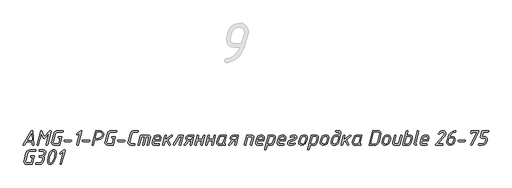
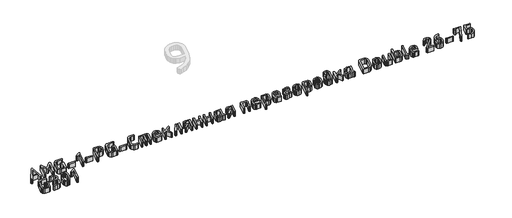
# One storey, part 6 of 22: 1 proxy.
"""IFC4 building model written with IfcOpenShell, lengths in millimetres."""

from ifc_helpers import new_model, si_unit, origin, origin_with_axes, place, context, project, spatial, polyline, outline, extrude, element, save

model = new_model("IFC4")

# Units and contexts
model_context = context("Model", 3, world=origin())
ifc_project = project(units=[si_unit("LENGTHUNIT", "METRE", prefix="MILLI")], contexts=[model_context])

# Site, building, storey
site = spatial("IfcSite", under=ifc_project)
building = spatial("IfcBuilding", under=site)
storey = spatial("IfcBuildingStorey", under=building, Name="Уровень 1", Elevation=0.0)

# Proxy
placement = place(None, origin())
element("IfcBuildingElementProxy", 1, Name="30", ObjectType="30", at=placement, inside=storey, context=model_context, shape_type="SweptSolid", body=[
    extrude(outline(polyline([(-36154.4219264, -51295.2113625), (-36210.5539274, -51295.2113625), (-36231.3287604, -51329.8494015), (-36237.7210168, -51333.5649005), (-36243.0345798, -51331.3276108), (-36245.1919664, -51326.0140477), (-36244.0733215, -51322.0188875), (-36161.4534084, -51186.2633437), (-36154.9812489, -51182.7076511), (-36149.6277342, -51184.4455458), (-36147.4703477, -51189.6592298), (-36137.0429795, -51326.2537573), (-36138.9406806, -51331.7371147), (-36144.6337839, -51333.5649005), (-36149.9573349, -51331.7970421), (-36152.0248303, -51326.493467), (-36154.4219264, -51295.2113625)]), holes=[polyline([(-36155.5405713, -51279.8699473), (-36160.6543764, -51213.3904815), (-36201.3251073, -51279.8699473), (-36155.5405713, -51279.8699473)])]), origin_with_axes(), (0.0, 0.0, 1.0), 50.0),
    extrude(outline(polyline([(-36059.3371135, -51213.3505299), (-36089.9000891, -51327.9716762), (-36092.4370158, -51332.1665945), (-36097.0913775, -51333.5649005), (-36102.3649889, -51331.3276108), (-36104.6821818, -51326.2537573), (-36104.362569, -51323.976516), (-36068.0865143, -51188.3008754), (-36065.5595755, -51184.1059572), (-36060.9351776, -51182.7076511), (-36053.9036956, -51187.2621337), (-36029.8128796, -51244.5527311), (-35973.0816046, -51185.1047472), (-35967.7680415, -51182.7076511), (-35962.1348656, -51184.5654006), (-35960.2571403, -51190.1386491), (-35960.49685, -51192.2960356), (-35996.732953, -51327.9716762), (-35999.3198193, -51332.1665945), (-36003.8842898, -51333.5649005), (-36009.1778771, -51331.3276108), (-36011.5150458, -51326.2537573), (-36011.1554814, -51323.976516), (-35982.5101827, -51216.6665129), (-36027.0961706, -51263.1701777), (-36032.4097337, -51265.4074674), (-36039.2414576, -51260.8929364), (-36059.3371135, -51213.3505299)])), origin_with_axes(), (0.0, 0.0, 1.0), 50.0),
    extrude(outline(polyline([(-35842.6795754, -51198.0490663), (-35891.3406268, -51198.0490663), (-35904.0052846, -51200.8356905), (-35914.512556, -51209.1955633), (-35920.5452479, -51220.5817699), (-35940.7607585, -51295.6907818), (-35941.5597906, -51301.2840061), (-35936.3860581, -51313.5491479), (-35923.5016664, -51318.2234853), (-35884.6287576, -51318.2234853), (-35868.4883104, -51259.4147271), (-35882.2316615, -51259.4147271), (-35887.8648374, -51257.4970502), (-35889.7425627, -51251.7440195), (-35887.8648374, -51245.9909888), (-35882.2316615, -51244.0733119), (-35856.782491, -51244.0733119), (-35852.3478631, -51245.4316663), (-35850.8696539, -51249.5067298), (-35850.9895087, -51251.5442615), (-35871.1251161, -51326.0939509), (-35874.6108934, -51331.6971631), (-35880.9931618, -51333.5649005), (-35927.5767298, -51333.5649005), (-35941.7995002, -51329.4199218), (-35952.8261424, -51316.9849857), (-35957.0210606, -51302.1229897), (-35956.2220285, -51295.8505882), (-35936.1263727, -51220.4219634), (-35926.1784238, -51199.6471304), (-35909.5186057, -51186.9425209), (-35887.2256117, -51182.7076511), (-35842.6795754, -51182.7076511), (-35837.0763632, -51184.625328), (-35835.2086258, -51190.3783587), (-35837.0763632, -51196.1313894), (-35842.6795754, -51198.0490663)])), origin_with_axes(), (0.0, 0.0, 1.0), 50.0),
    extrude(outline(polyline([(-35758.9809691, -51295.2113625), (-35821.0657587, -51295.2113625), (-35826.6689709, -51293.2936856), (-35828.5367083, -51287.5406549), (-35826.6689709, -51281.7876242), (-35821.0657587, -51279.8699473), (-35758.9809691, -51279.8699473), (-35753.3777569, -51281.7876242), (-35751.5100195, -51287.5406549), (-35753.3777569, -51293.2936856), (-35758.9809691, -51295.2113625)])), origin_with_axes(), (0.0, 0.0, 1.0), 50.0),
    extrude(outline(polyline([(-35667.0123811, -51209.7948373), (-35688.4663914, -51226.294849), (-35694.0596157, -51227.7730582), (-35699.1134934, -51224.9964219), (-35700.5317752, -51219.3432702), (-35697.5753567, -51214.3493199), (-35658.5026899, -51185.2645536), (-35654.068062, -51182.7076511), (-35648.4348861, -51184.5654006), (-35646.5571608, -51190.1386491), (-35646.7968704, -51192.2960356), (-35683.0329735, -51327.9716762), (-35685.6198398, -51332.1665945), (-35690.1843103, -51333.5649005), (-35695.4778976, -51331.3276108), (-35697.8150663, -51326.2537573), (-35697.4555019, -51323.976516), (-35667.0123811, -51209.7948373)])), origin_with_axes(), (0.0, 0.0, 1.0), 50.0),
    extrude(outline(polyline([(-35572.3270842, -51295.2113625), (-35634.4118738, -51295.2113625), (-35640.015086, -51293.2936856), (-35641.8828234, -51287.5406549), (-35640.015086, -51281.7876242), (-35634.4118738, -51279.8699473), (-35572.3270842, -51279.8699473), (-35566.723872, -51281.7876242), (-35564.8561346, -51287.5406549), (-35566.723872, -51293.2936856), (-35572.3270842, -51295.2113625)])), origin_with_axes(), (0.0, 0.0, 1.0), 50.0),
    extrude(outline(polyline([(-35481.7168507, -51274.7561423), (-35512.7592455, -51274.7561423), (-35527.3815318, -51328.091531), (-35529.978386, -51332.1965582), (-35534.5728202, -51333.5649005), (-35539.8464317, -51331.3276108), (-35542.1636246, -51326.2537573), (-35541.8440118, -51323.976516), (-35506.1672311, -51190.2585039), (-35502.7114176, -51184.5953643), (-35496.2592338, -51182.7076511), (-35457.386325, -51182.7076511), (-35440.2570756, -51187.731565), (-35427.063059, -51202.8033069), (-35422.0691088, -51221.1810439), (-35422.948044, -51228.7318967), (-35434.9834641, -51253.3620594), (-35455.3487933, -51269.162918), (-35481.7168507, -51274.7561423)]), holes=[polyline([(-35477.6417873, -51259.4147271), (-35461.1917151, -51255.5194459), (-35446.8391021, -51243.8336023), (-35439.8575596, -51232.7769964), (-35437.5303788, -51221.1810439), (-35440.4768094, -51209.3653576), (-35449.3161014, -51201.085388), (-35461.6211948, -51198.0490663), (-35492.623638, -51198.0490663), (-35508.7640853, -51259.4147271), (-35477.6417873, -51259.4147271)])]), origin_with_axes(), (0.0, 0.0, 1.0), 50.0),
    extrude(outline(polyline([(-35295.5024334, -51198.0490663), (-35344.1634847, -51198.0490663), (-35356.8281426, -51200.8356905), (-35367.3354139, -51209.1955633), (-35373.3681058, -51220.5817699), (-35393.5836165, -51295.6907818), (-35394.3826485, -51301.2840061), (-35389.2089161, -51313.5491479), (-35376.3245244, -51318.2234853), (-35337.4516156, -51318.2234853), (-35321.3111683, -51259.4147271), (-35335.0545194, -51259.4147271), (-35340.6876953, -51257.4970502), (-35342.5654206, -51251.7440195), (-35340.6876953, -51245.9909888), (-35335.0545194, -51244.0733119), (-35309.6053489, -51244.0733119), (-35305.1707211, -51245.4316663), (-35303.6925118, -51249.5067298), (-35303.8123666, -51251.5442615), (-35323.9479741, -51326.0939509), (-35327.4337513, -51331.6971631), (-35333.8160198, -51333.5649005), (-35380.3995878, -51333.5649005), (-35394.6223581, -51329.4199218), (-35405.6490003, -51316.9849857), (-35409.8439185, -51302.1229897), (-35409.0448865, -51295.8505882), (-35388.9492306, -51220.4219634), (-35379.0012817, -51199.6471304), (-35362.3414637, -51186.9425209), (-35340.0484697, -51182.7076511), (-35295.5024334, -51182.7076511), (-35289.8992212, -51184.625328), (-35288.0314838, -51190.3783587), (-35289.8992212, -51196.1313894), (-35295.5024334, -51198.0490663)])), origin_with_axes(), (0.0, 0.0, 1.0), 50.0),
    extrude(outline(polyline([(-35211.803827, -51295.2113625), (-35273.8886167, -51295.2113625), (-35279.4918289, -51293.2936856), (-35281.3595662, -51287.5406549), (-35279.4918289, -51281.7876242), (-35273.8886167, -51279.8699473), (-35211.803827, -51279.8699473), (-35206.2006148, -51281.7876242), (-35204.3328774, -51287.5406549), (-35206.2006148, -51293.2936856), (-35211.803827, -51295.2113625)])), origin_with_axes(), (0.0, 0.0, 1.0), 50.0),
    extrude(outline(polyline([(-35047.2831297, -51234.4050242), (-35044.7262271, -51230.1501786), (-35040.0119381, -51228.7318967), (-34968.0591028, -51228.7318967), (-34955.8339125, -51231.7382547), (-34947.3641729, -51240.7573289), (-34944.3278511, -51252.6629063), (-34945.1268832, -51258.6955982), (-34963.7443297, -51328.0116278), (-34966.331196, -51332.1765824), (-34970.8956665, -51333.5649005), (-34976.1892538, -51331.3675624), (-34978.5264225, -51326.3336606), (-34978.1668581, -51324.0564192), (-34960.6680564, -51258.9752595), (-34959.8690243, -51253.4619384), (-34962.915334, -51246.4204685), (-34972.054263, -51244.0733119), (-34987.5954362, -51244.0733119), (-35010.3278978, -51328.0116278), (-35012.914764, -51332.1765824), (-35017.4792345, -51333.5649005), (-35022.7728218, -51331.3675624), (-35025.1099905, -51326.3336606), (-35024.7903777, -51324.0564192), (-35003.0567062, -51244.0733119), (-35034.2189558, -51244.0733119), (-35056.9114658, -51328.0116278), (-35059.5083199, -51332.1765824), (-35064.1027542, -51333.5649005), (-35069.3763656, -51331.3475866), (-35071.6935585, -51326.293709), (-35071.3739457, -51324.0164676), (-35047.2831297, -51234.4050242)])), origin_with_axes(), (0.0, 0.0, 1.0), 50.0),
    extrude(outline(polyline([(-35112.004725, -51318.2234853), (-35106.3715492, -51320.1411622), (-35104.4938239, -51325.8941929), (-35106.3715492, -51331.6472236), (-35112.004725, -51333.5649005), (-35145.0447, -51333.5649005), (-35159.397313, -51329.3899581), (-35170.4139673, -51316.8651309), (-35174.4890307, -51301.9232317), (-35173.6899987, -51295.8505882), (-35153.7141976, -51220.4219634), (-35146.8924616, -51203.9219518), (-35136.4551055, -51192.1362292), (-35122.4021295, -51185.0647956), (-35104.7335335, -51182.7076511), (-35075.8485252, -51182.7076511), (-35070.2153493, -51184.625328), (-35068.337624, -51190.3783587), (-35070.2153493, -51196.1313894), (-35075.8485252, -51198.0490663), (-35108.8085969, -51198.0490663), (-35121.3533999, -51200.8356905), (-35131.9805261, -51209.1955633), (-35138.1330728, -51220.5817699), (-35158.2287286, -51295.6907818), (-35159.0277607, -51301.2840061), (-35153.8540282, -51313.5491479), (-35140.9696366, -51318.2234853), (-35112.004725, -51318.2234853)])), origin_with_axes(), (0.0, 0.0, 1.0), 50.0),
    extrude(outline(polyline([(-34837.5372188, -51265.4873706), (-34843.5699107, -51287.5406549), (-34905.6147487, -51287.5406549), (-34909.6099089, -51302.8820701), (-34910.408941, -51308.4752944), (-34907.3626313, -51315.7864376), (-34898.2237023, -51318.2234853), (-34861.4282768, -51318.2234853), (-34855.7951009, -51320.1411622), (-34853.9173756, -51325.8941929), (-34855.7951009, -51331.6472236), (-34861.4282768, -51333.5649005), (-34902.2188625, -51333.5649005), (-34911.2778883, -51331.80703), (-34918.9585838, -51326.5334186), (-34924.2022316, -51318.8227594), (-34925.9501142, -51309.7537457), (-34925.1510821, -51303.601199), (-34915.1631816, -51266.1665478), (-34908.3064879, -51248.9274315), (-34898.4434361, -51237.4013943), (-34884.6950911, -51230.8992711), (-34866.1825175, -51228.7318967), (-34854.6614742, -51230.804386), (-34845.1080474, -51237.0218541), (-34838.6808334, -51246.2756439), (-34836.5384287, -51257.4570986), (-34837.5372188, -51265.4873706)]), holes=[polyline([(-34853.1183436, -51265.1677578), (-34851.8798439, -51257.3771954), (-34856.4742782, -51247.3992827), (-34870.2575809, -51244.0733119), (-34889.1946403, -51249.3469234), (-34895.4570539, -51255.9389377), (-34899.5820568, -51265.1677578), (-34901.6595401, -51272.1992397), (-34855.0360205, -51272.1992397), (-34853.1183436, -51265.1677578)])]), origin_with_axes(), (0.0, 0.0, 1.0), 50.0),
    extrude(outline(polyline([(-34778.9681701, -51285.2634136), (-34799.063826, -51300.7246836), (-34806.3350176, -51328.0116278), (-34808.8719443, -51332.1765824), (-34813.5263059, -51333.5649005), (-34818.7999174, -51331.3475866), (-34821.1171103, -51326.293709), (-34820.7974975, -51324.0164676), (-34796.7066815, -51234.2851694), (-34794.1797426, -51230.1202149), (-34789.5553447, -51228.7318967), (-34783.9221688, -51230.5796583), (-34782.0444435, -51236.1229431), (-34782.2442015, -51238.2803296), (-34792.5916664, -51276.9534804), (-34731.9051829, -51231.2887992), (-34727.3906519, -51228.7318967), (-34722.1370162, -51231.009138), (-34719.7598959, -51236.1229431), (-34722.8361692, -51242.2355382), (-34766.8228831, -51275.9147387), (-34744.6497439, -51322.777968), (-34743.8507119, -51325.9740961), (-34746.1279532, -51331.2876592), (-34751.4814679, -51333.5649005), (-34758.1533854, -51329.2501275), (-34778.9681701, -51285.2634136)])), origin_with_axes(), (0.0, 0.0, 1.0), 50.0),
    extrude(outline(polyline([(-34617.2041333, -51228.7318967), (-34611.5709574, -51230.5796583), (-34609.6932321, -51236.1229431), (-34609.9329417, -51238.2803296), (-34634.1436126, -51328.0116278), (-34636.7304788, -51332.1765824), (-34641.2949494, -51333.5649005), (-34646.5885367, -51331.3675624), (-34648.9257054, -51326.3336606), (-34648.566141, -51324.0564192), (-34626.9922758, -51244.0733119), (-34644.0116583, -51244.0733119), (-34697.1073375, -51330.0491595), (-34702.980223, -51333.5649005), (-34708.9130359, -51331.7770663), (-34710.9705434, -51326.4135638), (-34709.8119469, -51322.2186455), (-34654.7186877, -51232.3674925), (-34648.2065765, -51228.7318967), (-34617.2041333, -51228.7318967)])), origin_with_axes(), (0.0, 0.0, 1.0), 50.0),
    extrude(outline(polyline([(-34547.3687329, -51287.5406549), (-34588.2791734, -51331.2477076), (-34593.6326881, -51333.5649005), (-34599.2259124, -51331.707151), (-34601.2234925, -51326.1339025), (-34599.066106, -51320.5406783), (-34567.2646307, -51286.5019133), (-34579.4698452, -51278.0321736), (-34584.0842552, -51264.1290161), (-34583.405078, -51258.1362758), (-34577.8617932, -51244.4977976), (-34570.1011945, -51235.4637416), (-34559.2143829, -51230.4148579), (-34544.2924595, -51228.7318967), (-34507.497034, -51228.7318967), (-34502.2034467, -51230.8892832), (-34499.866278, -51236.0030883), (-34500.2258424, -51238.2803296), (-34524.3965617, -51328.0116278), (-34526.9934158, -51332.1765824), (-34531.5878501, -51333.5649005), (-34537.1910623, -51331.6771873), (-34539.0587997, -51326.0140477), (-34538.8590416, -51323.8167096), (-34529.3106088, -51287.5406549), (-34547.3687329, -51287.5406549)]), holes=[polyline([(-34556.3578434, -51272.1992397), (-34525.3154485, -51272.1992397), (-34517.1253701, -51244.0733119), (-34548.2876197, -51244.0733119), (-34560.7824833, -51247.5890529), (-34568.0636628, -51258.1362758), (-34568.74284, -51263.2500809), (-34565.6465908, -51269.96195), (-34556.3578434, -51272.1992397)])]), origin_with_axes(), (0.0, 0.0, 1.0), 50.0),
    extrude(outline(polyline([(-34419.3637998, -51287.5406549), (-34465.9473679, -51287.5406549), (-34476.4945908, -51327.8518214), (-34479.0614812, -51332.1366308), (-34483.805734, -51333.5649005), (-34489.0593697, -51331.3475866), (-34491.3965384, -51326.293709), (-34491.0769256, -51324.0164676), (-34466.9861095, -51234.2851694), (-34464.4491828, -51230.1202149), (-34459.7948211, -51228.7318967), (-34454.4812581, -51230.80938), (-34452.2040167, -51235.8832335), (-34452.4037748, -51237.9607168), (-34461.9522077, -51272.1992397), (-34415.2487848, -51272.1992397), (-34404.7015619, -51234.125363), (-34402.174623, -51230.0802632), (-34397.5502251, -51228.7318967), (-34391.9170492, -51230.5796583), (-34390.0393239, -51236.1229431), (-34390.2790335, -51238.2803296), (-34414.3698496, -51328.0116278), (-34416.8967884, -51332.1765824), (-34421.5211864, -51333.5649005), (-34426.7947978, -51331.307635), (-34429.1119907, -51326.1339025), (-34428.7923779, -51323.8167096), (-34419.3637998, -51287.5406549)])), origin_with_axes(), (0.0, 0.0, 1.0), 50.0),
    extrude(outline(polyline([(-34309.4169909, -51287.5406549), (-34356.0005589, -51287.5406549), (-34366.5477819, -51327.8518214), (-34369.1146723, -51332.1366308), (-34373.8589251, -51333.5649005), (-34379.1125607, -51331.3475866), (-34381.4497295, -51326.293709), (-34381.1301167, -51324.0164676), (-34357.0393006, -51234.2851694), (-34354.5023739, -51230.1202149), (-34349.8480122, -51228.7318967), (-34344.5344491, -51230.80938), (-34342.2572078, -51235.8832335), (-34342.4569658, -51237.9607168), (-34352.0053987, -51272.1992397), (-34305.3019759, -51272.1992397), (-34294.754753, -51234.125363), (-34292.2278141, -51230.0802632), (-34287.6034162, -51228.7318967), (-34281.9702403, -51230.5796583), (-34280.092515, -51236.1229431), (-34280.3322246, -51238.2803296), (-34304.4230407, -51328.0116278), (-34306.9499795, -51332.1765824), (-34311.5743774, -51333.5649005), (-34316.8479889, -51331.307635), (-34319.1651818, -51326.1339025), (-34318.845569, -51323.8167096), (-34309.4169909, -51287.5406549)])), origin_with_axes(), (0.0, 0.0, 1.0), 50.0),
    extrude(outline(polyline([(-34242.538009, -51333.5649005), (-34251.5970348, -51331.8369937), (-34259.2777303, -51326.6532734), (-34264.5213781, -51319.0225174), (-34266.2692607, -51309.9535037), (-34265.4702286, -51303.601199), (-34253.4447964, -51258.6955982), (-34247.8815358, -51244.7924407), (-34239.8213001, -51235.523669), (-34228.9544643, -51230.4298398), (-34214.332178, -51228.7318967), (-34175.4992208, -51228.7318967), (-34170.6051495, -51230.8693074), (-34169.6662869, -51236.2028463), (-34189.9217491, -51310.7525357), (-34190.2413619, -51312.7900674), (-34188.7431768, -51316.8651309), (-34184.2486216, -51318.2234853), (-34179.0449254, -51320.1411622), (-34178.4556393, -51325.8941929), (-34181.7915981, -51331.6472236), (-34188.2038302, -51333.5649005), (-34198.261646, -51331.3875382), (-34203.6651002, -51324.8554513), (-34212.8140171, -51331.3875382), (-34227.076739, -51333.5649005), (-34242.538009, -51333.5649005)]), holes=[polyline([(-34238.5428488, -51318.2234853), (-34223.0016756, -51318.2234853), (-34210.9962192, -51313.6690027), (-34203.3055358, -51303.401441), (-34187.2849434, -51244.0733119), (-34218.3273382, -51244.0733119), (-34231.0718992, -51247.778823), (-34237.9835264, -51258.8953562), (-34249.9290554, -51303.401441), (-34250.7280875, -51308.6750524), (-34247.6817778, -51315.8363771), (-34238.5428488, -51318.2234853)])]), origin_with_axes(), (0.0, 0.0, 1.0), 50.0),
    extrude(outline(polyline([(-34092.240082, -51287.5406549), (-34133.1505226, -51331.2477076), (-34138.5040372, -51333.5649005), (-34144.0972615, -51331.707151), (-34146.0948416, -51326.1339025), (-34143.9374551, -51320.5406783), (-34112.1359799, -51286.5019133), (-34124.3411943, -51278.0321736), (-34128.9556043, -51264.1290161), (-34128.2764271, -51258.1362758), (-34122.7331423, -51244.4977976), (-34114.9725436, -51235.4637416), (-34104.085732, -51230.4148579), (-34089.1638087, -51228.7318967), (-34052.3683832, -51228.7318967), (-34047.0747959, -51230.8892832), (-34044.7376272, -51236.0030883), (-34045.0971916, -51238.2803296), (-34069.2679108, -51328.0116278), (-34071.864765, -51332.1765824), (-34076.4591992, -51333.5649005), (-34082.0624114, -51331.6771873), (-34083.9301488, -51326.0140477), (-34083.7303908, -51323.8167096), (-34074.1819579, -51287.5406549), (-34092.240082, -51287.5406549)]), holes=[polyline([(-34101.2291925, -51272.1992397), (-34070.1867977, -51272.1992397), (-34061.9967193, -51244.0733119), (-34093.1589689, -51244.0733119), (-34105.6538324, -51247.5890529), (-34112.9350119, -51258.1362758), (-34113.6141891, -51263.2500809), (-34110.51794, -51269.96195), (-34101.2291925, -51272.1992397)])]), origin_with_axes(), (0.0, 0.0, 1.0), 50.0),
    extrude(outline(polyline([(-33960.5995532, -51234.4050242), (-33958.0426507, -51230.1501786), (-33953.3283616, -51228.7318967), (-33912.4179211, -51228.7318967), (-33903.0542643, -51230.4198519), (-33895.4185144, -51235.4837174), (-33890.339667, -51243.1244613), (-33888.6467178, -51252.5430515), (-33889.4457499, -51258.6955982), (-33908.1031481, -51328.0116278), (-33910.6700385, -51332.1765824), (-33915.2544848, -51333.5649005), (-33920.5280963, -51331.3675624), (-33922.8452892, -51326.3336606), (-33922.5256764, -51324.0564192), (-33905.0268747, -51258.9752595), (-33904.2278427, -51253.5817932), (-33907.2641644, -51246.4504322), (-33916.3731297, -51244.0733119), (-33947.5353793, -51244.0733119), (-33970.2278893, -51328.0116278), (-33972.8247434, -51332.1765824), (-33977.4191777, -51333.5649005), (-33982.6927891, -51331.3475866), (-33985.0099821, -51326.293709), (-33984.6903692, -51324.0164676), (-33960.5995532, -51234.4050242)])), origin_with_axes(), (0.0, 0.0, 1.0), 50.0),
    extrude(outline(polyline([(-33781.5364727, -51265.4873706), (-33787.5691646, -51287.5406549), (-33849.6140026, -51287.5406549), (-33853.6091628, -51302.8820701), (-33854.4081949, -51308.4752944), (-33851.3618852, -51315.7864376), (-33842.2229562, -51318.2234853), (-33805.4275307, -51318.2234853), (-33799.7943548, -51320.1411622), (-33797.9166295, -51325.8941929), (-33799.7943548, -51331.6472236), (-33805.4275307, -51333.5649005), (-33846.2181164, -51333.5649005), (-33855.2771422, -51331.80703), (-33862.9578377, -51326.5334186), (-33868.2014855, -51318.8227594), (-33869.9493681, -51309.7537457), (-33869.150336, -51303.601199), (-33859.1624355, -51266.1665478), (-33852.3057418, -51248.9274315), (-33842.44269, -51237.4013943), (-33828.694345, -51230.8992711), (-33810.1817714, -51228.7318967), (-33798.6607281, -51230.804386), (-33789.1073013, -51237.0218541), (-33782.6800873, -51246.2756439), (-33780.5376826, -51257.4570986), (-33781.5364727, -51265.4873706)]), holes=[polyline([(-33797.1175975, -51265.1677578), (-33795.8790978, -51257.3771954), (-33800.4735321, -51247.3992827), (-33814.2568348, -51244.0733119), (-33833.1938942, -51249.3469234), (-33839.4563078, -51255.9389377), (-33843.5813107, -51265.1677578), (-33845.658794, -51272.1992397), (-33799.0352744, -51272.1992397), (-33797.1175975, -51265.1677578)])]), origin_with_axes(), (0.0, 0.0, 1.0), 50.0),
    extrude(outline(polyline([(-33740.7059354, -51234.4449758), (-33738.1490328, -51230.1601665), (-33733.4347438, -51228.7318967), (-33692.5243033, -51228.7318967), (-33683.3604045, -51230.4747853), (-33675.684703, -51235.7034512), (-33670.4860008, -51243.3991286), (-33668.7531, -51252.5430515), (-33669.5521321, -51258.6955982), (-33681.6175159, -51303.601199), (-33687.1657946, -51317.4344412), (-33695.1810848, -51326.6532734), (-33706.2127209, -51331.8369937), (-33720.8100375, -51333.5649005), (-33751.8124807, -51333.5649005), (-33762.3996553, -51373.876067), (-33764.9265941, -51378.1608763), (-33769.5509921, -51379.5891461), (-33774.8445793, -51377.3518564), (-33777.1817481, -51372.2780029), (-33776.8221836, -51370.0007616), (-33740.7059354, -51234.4449758)]), holes=[polyline([(-33727.6417615, -51244.0733119), (-33747.8572721, -51318.2234853), (-33716.7349741, -51318.2234853), (-33703.9604493, -51314.5179742), (-33697.0388343, -51303.401441), (-33685.1332569, -51258.8953562), (-33684.3342248, -51253.50189), (-33687.3705466, -51246.4304564), (-33696.4795119, -51244.0733119), (-33727.6417615, -51244.0733119)])]), origin_with_axes(), (0.0, 0.0, 1.0), 50.0),
    extrude(outline(polyline([(-33561.6428548, -51265.4873706), (-33567.6755468, -51287.5406549), (-33629.7203848, -51287.5406549), (-33633.715545, -51302.8820701), (-33634.514577, -51308.4752944), (-33631.4682674, -51315.7864376), (-33622.3293384, -51318.2234853), (-33585.5339129, -51318.2234853), (-33579.900737, -51320.1411622), (-33578.0230117, -51325.8941929), (-33579.900737, -51331.6472236), (-33585.5339129, -51333.5649005), (-33626.3244986, -51333.5649005), (-33635.3835244, -51331.80703), (-33643.0642199, -51326.5334186), (-33648.3078677, -51318.8227594), (-33650.0557502, -51309.7537457), (-33649.2567182, -51303.601199), (-33639.2688177, -51266.1665478), (-33632.412124, -51248.9274315), (-33622.5490722, -51237.4013943), (-33608.8007272, -51230.8992711), (-33590.2881535, -51228.7318967), (-33578.7671103, -51230.804386), (-33569.2136834, -51237.0218541), (-33562.7864695, -51246.2756439), (-33560.6440648, -51257.4570986), (-33561.6428548, -51265.4873706)]), holes=[polyline([(-33577.2239797, -51265.1677578), (-33575.98548, -51257.3771954), (-33580.5799142, -51247.3992827), (-33594.363217, -51244.0733119), (-33613.3002763, -51249.3469234), (-33619.56269, -51255.9389377), (-33623.6876929, -51265.1677578), (-33625.7651762, -51272.1992397), (-33579.1416566, -51272.1992397), (-33577.2239797, -51265.1677578)])]), origin_with_axes(), (0.0, 0.0, 1.0), 50.0),
    extrude(outline(polyline([(-33489.0907455, -51330.6484336), (-33520.2130435, -51333.5649005), (-33528.1434365, -51331.9668364), (-33534.8353299, -51327.1726442), (-33539.3898125, -51320.261017), (-33540.9079734, -51312.3106482), (-33539.2100303, -51303.1517434), (-33534.116201, -51294.3723789), (-33518.5350762, -51282.7065111), (-33473.1900079, -51264.9679998), (-33465.9387921, -51259.7742915), (-33463.5217201, -51251.6241647), (-33465.8289252, -51245.9610251), (-33472.7505402, -51244.0733119), (-33490.6588459, -51245.6913518), (-33504.1924511, -51250.5454714), (-33507.8280469, -51251.5842131), (-33513.1216341, -51249.3069717), (-33515.338948, -51244.0733119), (-33511.5834974, -51237.4413459), (-33493.5453491, -51230.909259), (-33468.75538, -51228.7318967), (-33458.6476247, -51231.4985451), (-33451.0168687, -51239.7984905), (-33448.0604501, -51250.3057618), (-33450.5074858, -51260.823021), (-33457.8485927, -51271.1205465), (-33470.2335893, -51279.3505765), (-33515.5786577, -51296.969233), (-33522.8898008, -51302.2528324), (-33525.3268486, -51310.4329229), (-33523.0595951, -51316.2758447), (-33516.2578349, -51318.2234853), (-33494.663994, -51316.4855906), (-33475.1076848, -51311.2719066), (-33472.3909758, -51310.7125841), (-33466.7577999, -51312.5903094), (-33464.8800746, -51318.2234853), (-33467.3271102, -51323.477121), (-33474.6682171, -51327.4123538), (-33489.0907455, -51330.6484336)])), origin_with_axes(), (0.0, 0.0, 1.0), 50.0),
    extrude(outline(polyline([(-33427.3255687, -51296.1302494), (-33419.3751999, -51266.1665478), (-33412.5185061, -51248.9274315), (-33402.6554544, -51237.4013943), (-33388.9071093, -51230.8992711), (-33370.3945357, -51228.7318967), (-33358.8734925, -51230.8443376), (-33349.3200656, -51237.1816605), (-33342.8928516, -51246.6152326), (-33340.750447, -51258.016421), (-33341.749237, -51266.1665478), (-33349.6996058, -51296.1302494), (-33359.6076031, -51317.6641629), (-33375.2286796, -51329.5897161), (-33398.68027, -51333.5649005), (-33410.2063072, -51331.4524596), (-33419.7747159, -51325.1151367), (-33426.2169117, -51315.6815646), (-33428.3643103, -51304.2803762), (-33427.3255687, -51296.1302494)]), holes=[polyline([(-33365.2807306, -51295.970443), (-33357.3303618, -51266.3263542), (-33356.0918622, -51258.016421), (-33360.6862964, -51247.5590892), (-33374.4695991, -51244.0733119), (-33385.0517797, -51245.464127), (-33393.4665859, -51249.6365725), (-33399.7140177, -51256.5906482), (-33403.794075, -51266.3263542), (-33411.8642987, -51295.970443), (-33413.1427499, -51304.2803762), (-33408.5383278, -51314.737708), (-33394.7250614, -51318.2234853), (-33384.1054261, -51316.8326702), (-33375.6581593, -51312.6602247), (-33369.3832608, -51305.706149), (-33365.2807306, -51295.970443)])]), origin_with_axes(), (0.0, 0.0, 1.0), 50.0),
    extrude(outline(polyline([(-33300.9186997, -51234.4449758), (-33298.3617972, -51230.1601665), (-33293.6475081, -51228.7318967), (-33252.7370676, -51228.7318967), (-33243.5731689, -51230.4747853), (-33235.8974673, -51235.7034512), (-33230.6987651, -51243.3991286), (-33228.9658644, -51252.5430515), (-33229.7648964, -51258.6955982), (-33241.8302802, -51303.601199), (-33247.378559, -51317.4344412), (-33255.3938491, -51326.6532734), (-33266.4254853, -51331.8369937), (-33281.0228019, -51333.5649005), (-33312.0252451, -51333.5649005), (-33322.6124196, -51373.876067), (-33325.1393585, -51378.1608763), (-33329.7637564, -51379.5891461), (-33335.0573437, -51377.3518564), (-33337.3945124, -51372.2780029), (-33337.034948, -51370.0007616), (-33300.9186997, -51234.4449758)]), holes=[polyline([(-33287.8545258, -51244.0733119), (-33308.0700365, -51318.2234853), (-33276.9477384, -51318.2234853), (-33264.1732137, -51314.5179742), (-33257.2515986, -51303.401441), (-33245.3460212, -51258.8953562), (-33244.5469892, -51253.50189), (-33247.5833109, -51246.4304564), (-33256.6922762, -51244.0733119), (-33287.8545258, -51244.0733119)])]), origin_with_axes(), (0.0, 0.0, 1.0), 50.0),
    extrude(outline(polyline([(-33207.4319508, -51296.1302494), (-33199.481582, -51266.1665478), (-33192.6248883, -51248.9274315), (-33182.7618366, -51237.4013943), (-33169.0134915, -51230.8992711), (-33150.5009179, -51228.7318967), (-33138.9798746, -51230.8443376), (-33129.4264478, -51237.1816605), (-33122.9992338, -51246.6152326), (-33120.8568291, -51258.016421), (-33121.8556192, -51266.1665478), (-33129.805988, -51296.1302494), (-33139.7139853, -51317.6641629), (-33155.3350617, -51329.5897161), (-33178.7866521, -51333.5649005), (-33190.3126893, -51331.4524596), (-33199.881098, -51325.1151367), (-33206.3232939, -51315.6815646), (-33208.4706925, -51304.2803762), (-33207.4319508, -51296.1302494)]), holes=[polyline([(-33145.3871128, -51295.970443), (-33137.436744, -51266.3263542), (-33136.1982443, -51258.016421), (-33140.7926786, -51247.5590892), (-33154.5759813, -51244.0733119), (-33165.1581619, -51245.464127), (-33173.5729681, -51249.6365725), (-33179.8203999, -51256.5906482), (-33183.9004572, -51266.3263542), (-33191.9706808, -51295.970443), (-33193.2491321, -51304.2803762), (-33188.64471, -51314.737708), (-33174.8314435, -51318.2234853), (-33164.2118083, -51316.8326702), (-33155.7645414, -51312.6602247), (-33149.4896429, -51305.706149), (-33145.3871128, -51295.970443)])]), origin_with_axes(), (0.0, 0.0, 1.0), 50.0),
    extrude(outline(polyline([(-32997.8458463, -51212.8711107), (-33019.8591791, -51295.8505882), (-33026.8457155, -51313.2744806), (-33036.8585858, -51324.8754271), (-33050.6169187, -51331.3925322), (-33068.8398432, -51333.5649005), (-33080.3658804, -51331.4524596), (-33089.9342891, -51325.1151367), (-33096.376485, -51315.6815646), (-33098.5238836, -51304.2803762), (-33097.4851419, -51296.1302494), (-33089.5347731, -51266.1665478), (-33082.6780794, -51248.9274315), (-33072.8150276, -51237.4013943), (-33059.0666826, -51230.8992711), (-33040.554109, -51228.7318967), (-33017.2623249, -51228.7318967), (-33013.2671647, -51213.3904815), (-33012.5080843, -51207.7972572), (-33015.5743698, -51200.486114), (-33024.7732261, -51198.0490663), (-33046.0274784, -51198.0490663), (-33051.6306906, -51196.1313894), (-33053.498428, -51190.3783587), (-33051.6306906, -51184.625328), (-33046.0274784, -51182.7076511), (-33020.7780659, -51182.7076511), (-33011.6441309, -51184.4655216), (-33003.9784173, -51189.7391331), (-32998.779715, -51197.4997318), (-32997.0468143, -51206.7185639), (-32997.8458463, -51212.8711107)]), holes=[polyline([(-33035.4403039, -51295.970443), (-33021.3373884, -51244.0733119), (-33044.6291724, -51244.0733119), (-33055.211353, -51245.464127), (-33063.6261592, -51249.6365725), (-33069.8735909, -51256.5906482), (-33073.9536483, -51266.3263542), (-33082.0238719, -51295.970443), (-33083.3023232, -51304.2803762), (-33078.697901, -51314.737708), (-33064.8846346, -51318.2234853), (-33054.2649994, -51316.8326702), (-33045.8177325, -51312.6602247), (-33039.542834, -51305.706149), (-33035.4403039, -51295.970443)])]), origin_with_axes(), (0.0, 0.0, 1.0), 50.0),
    extrude(outline(polyline([(-32953.3397616, -51285.2634136), (-32973.4354175, -51300.7246836), (-32980.706609, -51328.0116278), (-32983.2435358, -51332.1765824), (-32987.8978974, -51333.5649005), (-32993.1715089, -51331.3475866), (-32995.4887018, -51326.293709), (-32995.169089, -51324.0164676), (-32971.0782729, -51234.2851694), (-32968.5513341, -51230.1202149), (-32963.9269362, -51228.7318967), (-32958.2937603, -51230.5796583), (-32956.416035, -51236.1229431), (-32956.615793, -51238.2803296), (-32966.9632579, -51276.9534804), (-32906.2767744, -51231.2887992), (-32901.7622433, -51228.7318967), (-32896.5086077, -51231.009138), (-32894.1314873, -51236.1229431), (-32897.2077607, -51242.2355382), (-32941.1944746, -51275.9147387), (-32919.0213354, -51322.777968), (-32918.2223034, -51325.9740961), (-32920.4995447, -51331.2876592), (-32925.8530594, -51333.5649005), (-32932.5249769, -51329.2501275), (-32953.3397616, -51285.2634136)])), origin_with_axes(), (0.0, 0.0, 1.0), 50.0),
    extrude(outline(polyline([(-32856.6968362, -51333.5649005), (-32865.755862, -51331.8369937), (-32873.4365575, -51326.6532734), (-32878.6802052, -51319.0225174), (-32880.4280878, -51309.9535037), (-32879.6290558, -51303.601199), (-32867.6036236, -51258.6955982), (-32862.040363, -51244.7924407), (-32853.9801273, -51235.523669), (-32843.1132915, -51230.4298398), (-32828.4910051, -51228.7318967), (-32789.6580479, -51228.7318967), (-32784.7639767, -51230.8693074), (-32783.825114, -51236.2028463), (-32804.0805763, -51310.7525357), (-32804.4001891, -51312.7900674), (-32802.902004, -51316.8651309), (-32798.4074488, -51318.2234853), (-32793.2037526, -51320.1411622), (-32792.6144665, -51325.8941929), (-32795.9504252, -51331.6472236), (-32802.3626574, -51333.5649005), (-32812.4204732, -51331.3875382), (-32817.8239274, -51324.8554513), (-32826.9728443, -51331.3875382), (-32841.2355662, -51333.5649005), (-32856.6968362, -51333.5649005)]), holes=[polyline([(-32852.701676, -51318.2234853), (-32837.1605028, -51318.2234853), (-32825.1550464, -51313.6690027), (-32817.464363, -51303.401441), (-32801.4437705, -51244.0733119), (-32832.4861653, -51244.0733119), (-32845.2307264, -51247.778823), (-32852.1423536, -51258.8953562), (-32864.0878826, -51303.401441), (-32864.8869146, -51308.6750524), (-32861.840605, -51315.8363771), (-32852.701676, -51318.2234853)])]), origin_with_axes(), (0.0, 0.0, 1.0), 50.0),
    extrude(outline(polyline([(-32673.1192247, -51190.2585039), (-32669.6634111, -51184.5953643), (-32663.2112273, -51182.7076511), (-32616.6276593, -51182.7076511), (-32605.615999, -51185.1946383), (-32595.9926568, -51192.6556), (-32589.2957696, -51203.0829681), (-32587.0634738, -51214.4691747), (-32587.8625058, -51220.4219634), (-32607.9981133, -51295.8505882), (-32614.849813, -51312.3505998), (-32625.297157, -51324.1363224), (-32639.3401451, -51331.207756), (-32656.9787774, -51333.5649005), (-32703.5623454, -51333.5649005), (-32708.5562957, -51331.3276108), (-32709.3553277, -51326.0140477), (-32673.1192247, -51190.2585039)]), holes=[polyline([(-32659.5756316, -51198.0490663), (-32691.7366712, -51318.2234853), (-32652.9836172, -51318.2234853), (-32643.5899968, -51316.5854696), (-32634.7457109, -51311.6714226), (-32627.6592954, -51304.400231), (-32623.5392865, -51295.6907818), (-32603.4436306, -51220.5817699), (-32602.6445986, -51214.9885456), (-32607.8183311, -51202.7234037), (-32620.7027227, -51198.0490663), (-32659.5756316, -51198.0490663)])]), origin_with_axes(), (0.0, 0.0, 1.0), 50.0),
    extrude(outline(polyline([(-32575.8770252, -51296.1302494), (-32567.9266564, -51266.1665478), (-32561.0699627, -51248.9274315), (-32551.2069109, -51237.4013943), (-32537.4585659, -51230.8992711), (-32518.9459922, -51228.7318967), (-32502.0964041, -51233.216464), (-32491.5791448, -51246.670166), (-32489.3019035, -51258.016421), (-32490.3006936, -51266.1665478), (-32498.2510624, -51296.1302494), (-32508.1590597, -51317.7141024), (-32523.7401845, -51329.8094499), (-32547.2317265, -51333.5649005), (-32558.7577637, -51331.4524596), (-32568.3261724, -51325.1151367), (-32574.7683682, -51315.6815646), (-32576.9157669, -51304.2803762), (-32575.8770252, -51296.1302494)]), holes=[polyline([(-32513.8321872, -51295.970443), (-32505.8818184, -51266.3263542), (-32504.6433187, -51258.016421), (-32509.2377529, -51247.5590892), (-32523.0210557, -51244.0733119), (-32533.6032363, -51245.464127), (-32542.0180424, -51249.6365725), (-32548.2654742, -51256.5906482), (-32552.3455316, -51266.3263542), (-32560.4157552, -51295.970443), (-32561.6942065, -51304.2803762), (-32557.0897843, -51314.737708), (-32543.2765179, -51318.2234853), (-32532.6568827, -51316.8326702), (-32524.2096158, -51312.6602247), (-32517.9347173, -51305.706149), (-32513.8321872, -51295.970443)])]), origin_with_axes(), (0.0, 0.0, 1.0), 50.0),
    extrude(outline(polyline([(-32387.3054634, -51234.2851694), (-32384.7785246, -51230.1202149), (-32380.1541266, -51228.7318967), (-32374.5209507, -51230.5796583), (-32372.6432254, -51236.1229431), (-32372.8829351, -51238.2803296), (-32396.6141867, -51326.0939509), (-32400.0799882, -51331.6971631), (-32406.4023292, -51333.5649005), (-32445.1553832, -51333.5649005), (-32454.214409, -51331.80703), (-32461.8951045, -51326.5334186), (-32467.1387523, -51318.8227594), (-32468.8866348, -51309.7537457), (-32468.0876028, -51303.601199), (-32449.590011, -51234.2851694), (-32447.0331085, -51230.1202149), (-32442.3188195, -51228.7318967), (-32436.6856436, -51230.5696704), (-32434.8079183, -51236.0829915), (-32435.0076763, -51238.240378), (-32452.5464296, -51303.3215378), (-32453.30551, -51308.715004), (-32450.2691883, -51315.846365), (-32441.160223, -51318.2234853), (-32410.037925, -51318.2234853), (-32387.3054634, -51234.2851694)])), origin_with_axes(), (0.0, 0.0, 1.0), 50.0),
    extrude(outline(polyline([(-32356.3429718, -51333.5649005), (-32361.5966075, -51331.2876592), (-32363.8139214, -51326.0140477), (-32363.6141634, -51324.0963708), (-32327.3381087, -51188.3008754), (-32324.8111699, -51184.1059572), (-32320.1867719, -51182.7076511), (-32314.553596, -51184.5953643), (-32312.6758707, -51190.2585039), (-32312.9155803, -51192.455842), (-32322.3441584, -51228.7318967), (-32291.3417152, -51228.7318967), (-32282.1778165, -51230.4747853), (-32274.5021149, -51235.7034512), (-32269.3034127, -51243.3991286), (-32267.570512, -51252.5430515), (-32268.369544, -51258.6955982), (-32280.514831, -51303.601199), (-32286.0880795, -51317.5592899), (-32293.9385693, -51326.7531524), (-32304.8253809, -51331.8619635), (-32319.5075947, -51333.5649005), (-32356.3429718, -51333.5649005)]), holes=[polyline([(-32295.2969238, -51244.0733119), (-32326.4591734, -51244.0733119), (-32346.5548293, -51318.2234853), (-32315.4325313, -51318.2234853), (-32302.807825, -51314.5179742), (-32295.8562462, -51303.401441), (-32283.830814, -51258.8953562), (-32283.031782, -51253.50189), (-32286.0980674, -51246.4304564), (-32295.2969238, -51244.0733119)])]), origin_with_axes(), (0.0, 0.0, 1.0), 50.0),
    extrude(outline(polyline([(-32230.9348929, -51318.4631949), (-32225.301717, -51320.3509081), (-32223.4239917, -51326.0140477), (-32225.301717, -51331.6771873), (-32230.9348929, -51333.5649005), (-32244.9579052, -51328.3711923), (-32249.4224967, -51322.5582342), (-32250.9106939, -51315.5067764), (-32250.2315167, -51310.9522938), (-32217.5111546, -51188.3008754), (-32214.954252, -51184.1059572), (-32210.239963, -51182.7076511), (-32204.6067871, -51184.5654006), (-32202.7290618, -51190.1386491), (-32202.9687714, -51192.2960356), (-32234.6903435, -51310.9522938), (-32235.2496659, -51314.3481799), (-32230.9348929, -51318.4631949)])), origin_with_axes(), (0.0, 0.0, 1.0), 50.0),
    extrude(outline(polyline([(-32099.094606, -51265.4873706), (-32105.1272979, -51287.5406549), (-32167.172136, -51287.5406549), (-32171.1672962, -51302.8820701), (-32171.9663282, -51308.4752944), (-32168.9200185, -51315.7864376), (-32159.7810896, -51318.2234853), (-32122.9856641, -51318.2234853), (-32117.3524882, -51320.1411622), (-32115.4747629, -51325.8941929), (-32117.3524882, -51331.6472236), (-32122.9856641, -51333.5649005), (-32163.7762498, -51333.5649005), (-32172.8352756, -51331.80703), (-32180.5159711, -51326.5334186), (-32185.7596188, -51318.8227594), (-32187.5075014, -51309.7537457), (-32186.7084694, -51303.601199), (-32176.7205689, -51266.1665478), (-32169.8638751, -51248.877492), (-32160.0008234, -51237.3614427), (-32146.2524783, -51230.8892832), (-32127.7399047, -51228.7318967), (-32110.8903165, -51233.1265729), (-32100.3730573, -51246.3106016), (-32098.095816, -51257.4570986), (-32099.094606, -51265.4873706)]), holes=[polyline([(-32114.6757308, -51265.1677578), (-32113.4372312, -51257.3771954), (-32118.0316654, -51247.3992827), (-32131.8149681, -51244.0733119), (-32150.7520275, -51249.3469234), (-32157.0144411, -51255.9389377), (-32161.139444, -51265.1677578), (-32163.2169274, -51272.1992397), (-32116.5934077, -51272.1992397), (-32114.6757308, -51265.1677578)])]), origin_with_axes(), (0.0, 0.0, 1.0), 50.0),
    extrude(outline(polyline([(-31987.6296362, -51217.8251093), (-31993.1829089, -51220.5418183), (-31998.4764962, -51218.2645769), (-32000.6938101, -51213.0309171), (-31998.8560364, -51208.1568216), (-31979.5594126, -51189.5793266), (-31967.5939078, -51184.42557), (-31953.9903873, -51182.7076511), (-31939.0484881, -51186.3532348), (-31928.1816523, -51197.2899858), (-31923.9867341, -51212.4715946), (-31927.412584, -51227.7430945), (-31937.6901336, -51242.7149574), (-32006.2470828, -51318.2234853), (-31961.2615789, -51318.2234853), (-31955.628403, -51320.1411622), (-31953.7506777, -51325.8941929), (-31955.628403, -51331.6472236), (-31961.2615789, -51333.5649005), (-32023.3064169, -51333.5649005), (-32028.9096291, -51331.6871752), (-32030.7773665, -51326.0539993), (-32028.8596896, -51320.9002427), (-31948.5170178, -51232.4873473), (-31941.6253664, -51222.5693621), (-31939.3281493, -51213.1108203), (-31944.0124747, -51201.8145048), (-31958.0654507, -51198.0490663), (-31967.5239925, -51200.6359325), (-31978.6405258, -51208.3965312), (-31987.6296362, -51217.8251093)])), origin_with_axes(), (0.0, 0.0, 1.0), 50.0),
    extrude(outline(polyline([(-31885.1138253, -51333.5649005), (-31899.4065109, -51329.4199218), (-31910.4830926, -51316.9849857), (-31914.558156, -51302.0830381), (-31913.759124, -51296.0103946), (-31901.6937402, -51250.4655682), (-31892.7645571, -51227.293639), (-31879.320843, -51208.3565796), (-31858.9455259, -51192.4358662), (-31833.2965974, -51182.7076511), (-31831.3789205, -51182.7076511), (-31825.7457446, -51184.625328), (-31823.8680193, -51190.3783587), (-31825.1165069, -51195.4322363), (-31828.8619696, -51197.5696471), (-31854.1113821, -51207.2379348), (-31872.7787682, -51223.5381884), (-31883.3160032, -51244.0733119), (-31860.9031544, -51244.0733119), (-31849.0774802, -51246.1058496), (-31839.4890957, -51252.2034629), (-31833.136791, -51261.527168), (-31831.0193561, -51273.2379814), (-31832.0580977, -51281.3481566), (-31836.1331611, -51296.2900558), (-31846.0711222, -51317.6941266), (-31861.5823317, -51329.7295467), (-31885.1138253, -51333.5649005)]), holes=[polyline([(-31881.1586167, -51318.2234853), (-31870.583927, -51316.8451551), (-31862.151642, -51312.7101642), (-31855.8617616, -51305.8185129), (-31851.714286, -51296.170201), (-31847.6392225, -51281.4680114), (-31846.3607713, -51273.2379814), (-31851.0251208, -51262.8705407), (-31865.0181694, -51259.4147271), (-31888.3099535, -51259.4147271), (-31898.297854, -51296.170201), (-31899.2167408, -51301.6435705), (-31894.0430084, -51313.6490269), (-31881.1586167, -51318.2234853)])]), origin_with_axes(), (0.0, 0.0, 1.0), 50.0),
    extrude(outline(polyline([(-31731.8594797, -51295.2113625), (-31793.9442694, -51295.2113625), (-31799.5474815, -51293.2936856), (-31801.4152189, -51287.5406549), (-31799.5474815, -51281.7876242), (-31793.9442694, -51279.8699473), (-31731.8594797, -51279.8699473), (-31726.2562675, -51281.7876242), (-31724.3885301, -51287.5406549), (-31726.2562675, -51293.2936856), (-31731.8594797, -51295.2113625)])), origin_with_axes(), (0.0, 0.0, 1.0), 50.0),
    extrude(outline(polyline([(-31555.1535437, -51333.5649005), (-31584.1584068, -51333.5649005), (-31589.761619, -51331.6472236), (-31591.6293564, -51325.8941929), (-31589.761619, -51320.1411622), (-31584.1584068, -51318.2234853), (-31551.1983351, -51318.2234853), (-31540.6236455, -51316.8451551), (-31532.1913604, -51312.7101642), (-31525.9014801, -51305.8185129), (-31521.7540044, -51296.170201), (-31517.678941, -51281.4680114), (-31516.4004897, -51273.2379814), (-31521.0648393, -51262.8705407), (-31535.0578879, -51259.4147271), (-31564.0227994, -51259.4147271), (-31569.3163867, -51257.0975342), (-31571.5337006, -51251.7440195), (-31571.293991, -51249.786391), (-31555.2733985, -51188.5006334), (-31552.716496, -51184.1558967), (-31548.002207, -51182.7076511), (-31493.7079797, -51182.7076511), (-31488.0748039, -51184.625328), (-31486.1970786, -51190.3783587), (-31488.0748039, -51196.1313894), (-31493.7079797, -51198.0490663), (-31542.2092247, -51198.0490663), (-31554.2746085, -51244.0733119), (-31530.9428729, -51244.0733119), (-31519.0572713, -51246.0908678), (-31509.5288142, -51252.1435355), (-31503.2664005, -51261.4522588), (-31501.1789293, -51273.2379814), (-31502.217671, -51281.3481566), (-31506.2927344, -51296.2900558), (-31516.270647, -51317.754054), (-31531.6620017, -51329.7295467), (-31555.1535437, -51333.5649005)])), origin_with_axes(), (0.0, 0.0, 1.0), 50.0),
    extrude(outline(polyline([(-31607.8497069, -51198.5684371), (-31651.716566, -51198.5684371), (-31653.6342429, -51206.9582735), (-31656.8403589, -51212.4516188), (-31662.6233533, -51213.4304331), (-31667.6472673, -51209.6949583), (-31668.176626, -51203.202823), (-31665.4599171, -51191.0575359), (-31662.8430871, -51185.42436), (-31657.9490159, -51183.5466347), (-31595.9041779, -51183.5466347), (-31590.271002, -51185.42436), (-31588.3932767, -51191.0575359), (-31589.0724539, -51194.4534221), (-31656.3509518, -51329.4898371), (-31660.7855796, -51333.2053361), (-31666.7783199, -51333.1254329), (-31670.2141577, -51328.3312407), (-31669.7746901, -51322.777968), (-31607.8497069, -51198.5684371)])), origin_with_axes(), (0.0, 0.0, 1.0), 50.0),
    extrude(outline(polyline([(-36123.9388541, -51394.0733119), (-36172.5999054, -51394.0733119), (-36185.2645632, -51396.8599361), (-36195.7718346, -51405.2198089), (-36201.8045265, -51416.6060154), (-36222.0200371, -51491.7150274), (-36222.8190692, -51497.3082516), (-36217.6453367, -51509.5733935), (-36204.7609451, -51514.2477309), (-36165.8880362, -51514.2477309), (-36149.747589, -51455.4389727), (-36163.4909401, -51455.4389727), (-36169.124116, -51453.5212958), (-36171.0018413, -51447.7682651), (-36169.124116, -51442.0152344), (-36163.4909401, -51440.0975575), (-36138.0417696, -51440.0975575), (-36133.6071418, -51441.4559119), (-36132.1289325, -51445.5309754), (-36132.2487873, -51447.5685071), (-36152.3843947, -51522.1181965), (-36155.870172, -51527.7214087), (-36162.2524404, -51529.5891461), (-36208.8360085, -51529.5891461), (-36223.0587788, -51525.4441674), (-36234.085421, -51513.0092313), (-36238.2803392, -51498.1472353), (-36237.4813072, -51491.8748338), (-36217.3856513, -51416.446209), (-36207.4377024, -51395.671376), (-36190.7778843, -51382.9667665), (-36168.4848904, -51378.7318967), (-36123.9388541, -51378.7318967), (-36118.3356419, -51380.6495736), (-36116.4679045, -51386.4026043), (-36118.3356419, -51392.155635), (-36123.9388541, -51394.0733119)])), origin_with_axes(), (0.0, 0.0, 1.0), 50.0),
    extrude(outline(polyline([(-36038.6821352, -51449.5261356), (-36031.6706291, -51456.4177869), (-36029.3334603, -51469.0225174), (-36030.4920568, -51477.5721602), (-36034.4472654, -51492.4341562), (-36044.3952143, -51513.0691587), (-36060.8153228, -51525.4341795), (-36083.4279295, -51529.5891461), (-36112.4327927, -51529.5891461), (-36118.0360048, -51527.6714692), (-36119.9037422, -51521.9184385), (-36118.0360048, -51516.1654078), (-36112.4327927, -51514.2477309), (-36079.4727209, -51514.2477309), (-36069.9892094, -51512.6446729), (-36061.1149598, -51507.8354988), (-36054.0585081, -51500.7191197), (-36050.0283902, -51492.1944466), (-36046.0731816, -51477.492257), (-36044.7947303, -51469.1423722), (-36049.4291162, -51458.8648225), (-36063.3322737, -51455.4389727), (-36076.8359152, -51455.4389727), (-36082.4690911, -51453.5212958), (-36084.3468164, -51447.7682651), (-36082.4690911, -51442.0152344), (-36076.8359152, -51440.0975575), (-36059.2172587, -51440.0975575), (-36046.6424919, -51437.2510058), (-36035.9254747, -51428.7113509), (-36029.9327344, -51417.0854347), (-36029.0138475, -51410.2137591), (-36033.5583423, -51398.1084237), (-36047.1918265, -51394.0733119), (-36076.2765928, -51394.0733119), (-36081.9097687, -51392.155635), (-36083.787494, -51386.4026043), (-36081.9097687, -51380.6495736), (-36076.2765928, -51378.7318967), (-36043.116763, -51378.7318967), (-36027.9151785, -51382.7470327), (-36017.3080281, -51394.7924407), (-36013.5525775, -51409.7742915), (-36014.4714644, -51417.0854347), (-36023.7002844, -51437.7603887), (-36038.6821352, -51449.5261356)])), origin_with_axes(), (0.0, 0.0, 1.0), 50.0),
    extrude(outline(polyline([(-35926.6977946, -51491.1956565), (-35936.29367, -51507.9928082), (-35947.143027, -51519.9907737), (-35959.2458654, -51527.189553), (-35972.6021854, -51529.5891461), (-35983.3341845, -51527.3044139), (-35990.9998981, -51520.4502171), (-35995.5993263, -51509.0265559), (-35997.1324691, -51493.0334302), (-35992.3682405, -51456.6475086), (-35978.0755549, -51417.2452411), (-35968.4796794, -51400.3956529), (-35957.6303225, -51388.3602328), (-35945.5274841, -51381.1389807), (-35932.1711641, -51378.7318967), (-35921.439165, -51381.0241198), (-35913.7734513, -51387.9007894), (-35909.1740231, -51399.3619052), (-35907.6408804, -51415.4074674), (-35912.405109, -51451.8533164), (-35926.6977946, -51491.1956565)]), holes=[polyline([(-35929.2147455, -51454.1605214), (-35922.9822956, -51415.6871286), (-35926.3182544, -51399.4767661), (-35936.3261307, -51394.0733119), (-35943.6672376, -51396.2282014), (-35951.1082235, -51402.69287), (-35966.2898323, -51428.5515445), (-35975.5586039, -51454.1605214), (-35981.7910539, -51492.6339142), (-35978.4550951, -51508.8442767), (-35968.4472188, -51514.2477309), (-35961.1136028, -51512.0928414), (-35953.6950897, -51505.6281728), (-35938.603372, -51479.7694983), (-35929.2147455, -51454.1605214)])]), origin_with_axes(), (0.0, 0.0, 1.0), 50.0),
    extrude(outline(polyline([(-35838.3248508, -51405.8190829), (-35859.7788611, -51422.3190945), (-35865.3720854, -51423.7973038), (-35870.4259631, -51421.0206675), (-35871.8442449, -51415.3675158), (-35868.8878264, -51410.3735655), (-35829.8151596, -51381.2887992), (-35825.3805317, -51378.7318967), (-35819.7473558, -51380.5896462), (-35817.8696305, -51386.1628947), (-35818.1093402, -51388.3202812), (-35854.3454432, -51523.9959218), (-35856.9323095, -51528.19084), (-35861.49678, -51529.5891461), (-35866.7903673, -51527.3518564), (-35869.127536, -51522.2780029), (-35868.7679716, -51520.0007616), (-35838.3248508, -51405.8190829)])), origin_with_axes(), (0.0, 0.0, 1.0), 50.0),
])

save(model, "model.ifc")
